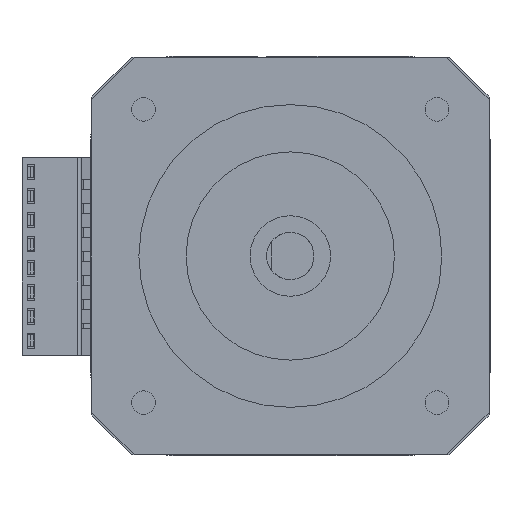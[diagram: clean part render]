
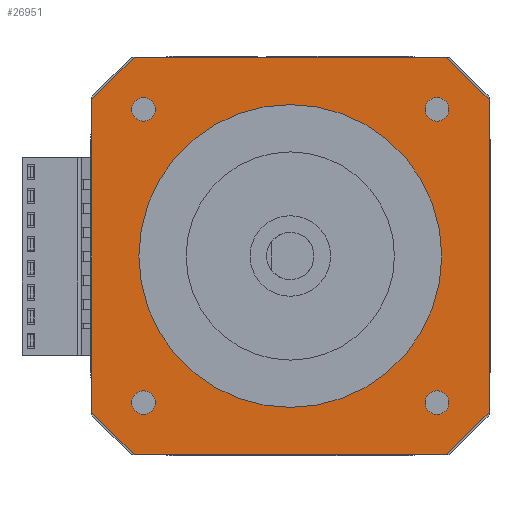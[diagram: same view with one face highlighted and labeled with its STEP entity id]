
A CAD part, front view. The second image highlights one B-rep face of the part: STEP entity #26951.
In plain terms, the highlighted planar face has unit normal (0, -1, 0).
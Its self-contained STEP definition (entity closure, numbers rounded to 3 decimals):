
#1471=DIRECTION('',(0.707,0.,-0.707));
#1472=VECTOR('',#1471,6.364);
#1473=CARTESIAN_POINT('',(37.5,11.,0.));
#1474=LINE('',#1473,#1472);
#1475=DIRECTION('',(0.,0.,-1.));
#1476=VECTOR('',#1475,33.);
#1477=CARTESIAN_POINT('',(42.,11.,-4.5));
#1478=LINE('',#1477,#1476);
#1479=DIRECTION('',(-0.707,0.,-0.707));
#1480=VECTOR('',#1479,6.364);
#1481=CARTESIAN_POINT('',(42.,11.,-37.5));
#1482=LINE('',#1481,#1480);
#1483=DIRECTION('',(-0.707,0.,0.707));
#1484=VECTOR('',#1483,6.364);
#1485=CARTESIAN_POINT('',(4.5,11.,-42.));
#1486=LINE('',#1485,#1484);
#1487=DIRECTION('',(0.707,0.,0.707));
#1488=VECTOR('',#1487,6.364);
#1489=CARTESIAN_POINT('',(0.,11.,-4.5));
#1490=LINE('',#1489,#1488);
#1491=CARTESIAN_POINT('',(5.5,11.,-36.5));
#1492=DIRECTION('',(0.,-1.,0.));
#1493=DIRECTION('',(-1.,0.,0.));
#1494=AXIS2_PLACEMENT_3D('',#1491,#1492,#1493);
#1496=CARTESIAN_POINT('',(5.5,11.,-36.5));
#1497=DIRECTION('',(0.,-1.,0.));
#1498=DIRECTION('',(1.,0.,0.));
#1499=AXIS2_PLACEMENT_3D('',#1496,#1497,#1498);
#1501=CARTESIAN_POINT('',(36.5,11.,-36.5));
#1502=DIRECTION('',(0.,-1.,0.));
#1503=DIRECTION('',(-1.,0.,0.));
#1504=AXIS2_PLACEMENT_3D('',#1501,#1502,#1503);
#1506=CARTESIAN_POINT('',(36.5,11.,-36.5));
#1507=DIRECTION('',(0.,-1.,0.));
#1508=DIRECTION('',(1.,0.,0.));
#1509=AXIS2_PLACEMENT_3D('',#1506,#1507,#1508);
#1511=CARTESIAN_POINT('',(5.5,11.,-5.5));
#1512=DIRECTION('',(0.,-1.,0.));
#1513=DIRECTION('',(-1.,0.,0.));
#1514=AXIS2_PLACEMENT_3D('',#1511,#1512,#1513);
#1516=CARTESIAN_POINT('',(5.5,11.,-5.5));
#1517=DIRECTION('',(0.,-1.,0.));
#1518=DIRECTION('',(1.,0.,0.));
#1519=AXIS2_PLACEMENT_3D('',#1516,#1517,#1518);
#1521=CARTESIAN_POINT('',(36.5,11.,-5.5));
#1522=DIRECTION('',(0.,-1.,0.));
#1523=DIRECTION('',(-1.,0.,0.));
#1524=AXIS2_PLACEMENT_3D('',#1521,#1522,#1523);
#1526=CARTESIAN_POINT('',(36.5,11.,-5.5));
#1527=DIRECTION('',(0.,-1.,0.));
#1528=DIRECTION('',(1.,0.,0.));
#1529=AXIS2_PLACEMENT_3D('',#1526,#1527,#1528);
#1531=CARTESIAN_POINT('',(21.,11.,-21.));
#1532=DIRECTION('',(0.,-1.,0.));
#1533=DIRECTION('',(-1.,0.,0.));
#1534=AXIS2_PLACEMENT_3D('',#1531,#1532,#1533);
#1536=CARTESIAN_POINT('',(21.,11.,-21.));
#1537=DIRECTION('',(0.,-1.,0.));
#1538=DIRECTION('',(1.,0.,0.));
#1539=AXIS2_PLACEMENT_3D('',#1536,#1537,#1538);
#1549=DIRECTION('',(-1.,0.,0.));
#1550=VECTOR('',#1549,33.);
#1551=CARTESIAN_POINT('',(37.5,11.,0.));
#1552=LINE('',#1551,#1550);
#7419=DIRECTION('',(0.,0.,-1.));
#7420=VECTOR('',#7419,33.);
#7421=CARTESIAN_POINT('',(0.,11.,-4.5));
#7422=LINE('',#7421,#7420);
#7439=DIRECTION('',(1.,0.,0.));
#7440=VECTOR('',#7439,33.);
#7441=CARTESIAN_POINT('',(4.5,11.,-42.));
#7442=LINE('',#7441,#7440);
#18441=CARTESIAN_POINT('',(42.,11.,-4.5));
#18442=CARTESIAN_POINT('',(42.,11.,-37.5));
#18443=VERTEX_POINT('',#18441);
#18444=VERTEX_POINT('',#18442);
#18451=CARTESIAN_POINT('',(37.5,11.,0.));
#18452=CARTESIAN_POINT('',(4.5,11.,0.));
#18453=VERTEX_POINT('',#18451);
#18454=VERTEX_POINT('',#18452);
#18455=CARTESIAN_POINT('',(0.,11.,-4.5));
#18456=VERTEX_POINT('',#18455);
#18457=CARTESIAN_POINT('',(0.,11.,-37.5));
#18458=VERTEX_POINT('',#18457);
#18459=CARTESIAN_POINT('',(4.5,11.,-42.));
#18460=VERTEX_POINT('',#18459);
#18461=CARTESIAN_POINT('',(37.5,11.,-42.));
#18462=VERTEX_POINT('',#18461);
#18463=CARTESIAN_POINT('',(4.25,11.,-36.5));
#18464=CARTESIAN_POINT('',(6.75,11.,-36.5));
#18465=VERTEX_POINT('',#18463);
#18466=VERTEX_POINT('',#18464);
#18467=CARTESIAN_POINT('',(35.25,11.,-36.5));
#18468=CARTESIAN_POINT('',(37.75,11.,-36.5));
#18469=VERTEX_POINT('',#18467);
#18470=VERTEX_POINT('',#18468);
#18471=CARTESIAN_POINT('',(4.25,11.,-5.5));
#18472=CARTESIAN_POINT('',(6.75,11.,-5.5));
#18473=VERTEX_POINT('',#18471);
#18474=VERTEX_POINT('',#18472);
#18475=CARTESIAN_POINT('',(35.25,11.,-5.5));
#18476=CARTESIAN_POINT('',(37.75,11.,-5.5));
#18477=VERTEX_POINT('',#18475);
#18478=VERTEX_POINT('',#18476);
#18479=CARTESIAN_POINT('',(5.,11.,-21.));
#18480=CARTESIAN_POINT('',(37.,11.,-21.));
#18481=VERTEX_POINT('',#18479);
#18482=VERTEX_POINT('',#18480);
#26900=CARTESIAN_POINT('',(21.,11.,-21.));
#26901=DIRECTION('',(0.,1.,0.));
#26902=DIRECTION('',(1.,0.,0.));
#26903=AXIS2_PLACEMENT_3D('',#26900,#26901,#26902);
#26904=PLANE('',#26903);
#26906=ORIENTED_EDGE('',*,*,#26905,.F.);
#26908=ORIENTED_EDGE('',*,*,#26907,.T.);
#26910=ORIENTED_EDGE('',*,*,#26909,.T.);
#26912=ORIENTED_EDGE('',*,*,#26911,.T.);
#26914=ORIENTED_EDGE('',*,*,#26913,.F.);
#26916=ORIENTED_EDGE('',*,*,#26915,.T.);
#26918=ORIENTED_EDGE('',*,*,#26917,.F.);
#26920=ORIENTED_EDGE('',*,*,#26919,.T.);
#26921=EDGE_LOOP('',(#26906,#26908,#26910,#26912,#26914,#26916,#26918,#26920));
#26922=FACE_OUTER_BOUND('',#26921,.F.);
#26924=ORIENTED_EDGE('',*,*,#26923,.T.);
#26926=ORIENTED_EDGE('',*,*,#26925,.T.);
#26927=EDGE_LOOP('',(#26924,#26926));
#26928=FACE_BOUND('',#26927,.F.);
#26930=ORIENTED_EDGE('',*,*,#26929,.T.);
#26932=ORIENTED_EDGE('',*,*,#26931,.T.);
#26933=EDGE_LOOP('',(#26930,#26932));
#26934=FACE_BOUND('',#26933,.F.);
#26936=ORIENTED_EDGE('',*,*,#26935,.T.);
#26938=ORIENTED_EDGE('',*,*,#26937,.T.);
#26939=EDGE_LOOP('',(#26936,#26938));
#26940=FACE_BOUND('',#26939,.F.);
#26942=ORIENTED_EDGE('',*,*,#26941,.T.);
#26944=ORIENTED_EDGE('',*,*,#26943,.T.);
#26945=EDGE_LOOP('',(#26942,#26944));
#26946=FACE_BOUND('',#26945,.F.);
#26947=ORIENTED_EDGE('',*,*,#26865,.T.);
#26948=ORIENTED_EDGE('',*,*,#26887,.T.);
#26949=EDGE_LOOP('',(#26947,#26948));
#26950=FACE_BOUND('',#26949,.F.);
#26951=ADVANCED_FACE('',(#26922,#26928,#26934,#26940,#26946,#26950),#26904,.F.);
#1495=CIRCLE('',#1494,1.25);
#1500=CIRCLE('',#1499,1.25);
#1505=CIRCLE('',#1504,1.25);
#1510=CIRCLE('',#1509,1.25);
#1515=CIRCLE('',#1514,1.25);
#1520=CIRCLE('',#1519,1.25);
#1525=CIRCLE('',#1524,1.25);
#1530=CIRCLE('',#1529,1.25);
#1535=CIRCLE('',#1534,16.);
#1540=CIRCLE('',#1539,16.);
#26865=EDGE_CURVE('',#18481,#18482,#1535,.T.);
#26887=EDGE_CURVE('',#18482,#18481,#1540,.T.);
#26905=EDGE_CURVE('',#18453,#18454,#1552,.T.);
#26907=EDGE_CURVE('',#18453,#18443,#1474,.T.);
#26909=EDGE_CURVE('',#18443,#18444,#1478,.T.);
#26911=EDGE_CURVE('',#18444,#18462,#1482,.T.);
#26913=EDGE_CURVE('',#18460,#18462,#7442,.T.);
#26915=EDGE_CURVE('',#18460,#18458,#1486,.T.);
#26917=EDGE_CURVE('',#18456,#18458,#7422,.T.);
#26919=EDGE_CURVE('',#18456,#18454,#1490,.T.);
#26923=EDGE_CURVE('',#18465,#18466,#1495,.T.);
#26925=EDGE_CURVE('',#18466,#18465,#1500,.T.);
#26929=EDGE_CURVE('',#18469,#18470,#1505,.T.);
#26931=EDGE_CURVE('',#18470,#18469,#1510,.T.);
#26935=EDGE_CURVE('',#18473,#18474,#1515,.T.);
#26937=EDGE_CURVE('',#18474,#18473,#1520,.T.);
#26941=EDGE_CURVE('',#18477,#18478,#1525,.T.);
#26943=EDGE_CURVE('',#18478,#18477,#1530,.T.);
